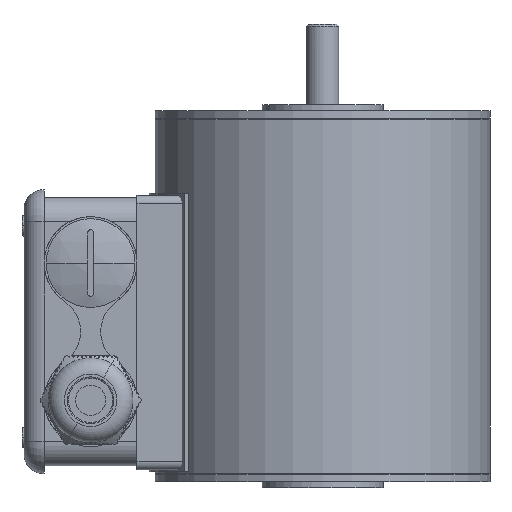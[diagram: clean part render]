
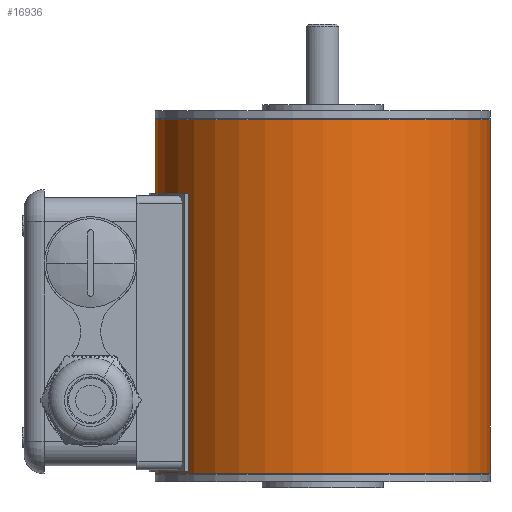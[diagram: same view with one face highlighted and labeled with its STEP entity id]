
A CAD part, front view. The second image highlights one B-rep face of the part: STEP entity #16936.
In plain terms, the highlighted cylindrical face has radius 41.5 mm (diameter 83 mm), a partial arc.
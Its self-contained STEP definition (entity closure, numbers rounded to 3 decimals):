
#5196 = VERTEX_POINT ( 'NONE', #19352 ) ;
#5199 = VERTEX_POINT ( 'NONE', #19566 ) ;
#5210 = EDGE_CURVE ( 'NONE', #5225, #5199, #19552, .T. ) ;
#5225 = VERTEX_POINT ( 'NONE', #19620 ) ;
#5291 = VERTEX_POINT ( 'NONE', #18454 ) ;
#5354 = EDGE_CURVE ( 'NONE', #5291, #5196, #18794, .T. ) ;
#7723 = CARTESIAN_POINT ( 'NONE',  ( 0., 0., -23.7 ) ) ;
#7724 = CIRCLE ( 'NONE', #7769, 41.5 ) ;
#7768 = DIRECTION ( 'NONE',  ( 1., 0., 0. ) ) ;
#7769 = AXIS2_PLACEMENT_3D ( 'NONE', #7723, #7798, #7768 ) ;
#7798 = DIRECTION ( 'NONE',  ( 0., 0., 1. ) ) ;
#16073 = EDGE_CURVE ( 'NONE', #5291, #5225, #24146, .T. ) ;
#16844 = ORIENTED_EDGE ( 'NONE', *, *, #17496, .F. ) ;
#16845 = ORIENTED_EDGE ( 'NONE', *, *, #5210, .T. ) ;
#16905 = ORIENTED_EDGE ( 'NONE', *, *, #16073, .T. ) ;
#16936 = ADVANCED_FACE ( 'NONE', ( #24829 ), #24836, .T. ) ;
#17342 = ORIENTED_EDGE ( 'NONE', *, *, #5354, .F. ) ;
#17437 = EDGE_LOOP ( 'NONE', ( #17342, #16905, #16845, #16844 ) ) ;
#17496 = EDGE_CURVE ( 'NONE', #5196, #5199, #7724, .T. ) ;
#18454 = CARTESIAN_POINT ( 'NONE',  ( -41.5, 0., -111.3 ) ) ;
#18772 = DIRECTION ( 'NONE',  ( 0., 0., 1. ) ) ;
#18773 = VECTOR ( 'NONE', #18772, 1000. ) ;
#18793 = CARTESIAN_POINT ( 'NONE',  ( -41.5, 0., 0. ) ) ;
#18794 = LINE ( 'NONE', #18793, #18773 ) ;
#19352 = CARTESIAN_POINT ( 'NONE',  ( -41.5, 0., -23.7 ) ) ;
#19551 = CARTESIAN_POINT ( 'NONE',  ( 41.5, 0., 0. ) ) ;
#19552 = LINE ( 'NONE', #19551, #19664 ) ;
#19566 = CARTESIAN_POINT ( 'NONE',  ( 41.5, 0., -23.7 ) ) ;
#19620 = CARTESIAN_POINT ( 'NONE',  ( 41.5, 0., -111.3 ) ) ;
#19663 = DIRECTION ( 'NONE',  ( 0., 0., 1. ) ) ;
#19664 = VECTOR ( 'NONE', #19663, 1000. ) ;
#24074 = DIRECTION ( 'NONE',  ( 1., 0., 0. ) ) ;
#24075 = DIRECTION ( 'NONE',  ( 0., 0., 1. ) ) ;
#24076 = CARTESIAN_POINT ( 'NONE',  ( 0., 0., -111.3 ) ) ;
#24077 = AXIS2_PLACEMENT_3D ( 'NONE', #24076, #24075, #24074 ) ;
#24146 = CIRCLE ( 'NONE', #24077, 41.5 ) ;
#24767 = DIRECTION ( 'NONE',  ( 1., 0., 0. ) ) ;
#24768 = DIRECTION ( 'NONE',  ( 0., 0., 1. ) ) ;
#24769 = CARTESIAN_POINT ( 'NONE',  ( 0., 0., 0. ) ) ;
#24772 = AXIS2_PLACEMENT_3D ( 'NONE', #24769, #24768, #24767 ) ;
#24829 = FACE_OUTER_BOUND ( 'NONE', #17437, .T. ) ;
#24836 = CYLINDRICAL_SURFACE ( 'NONE', #24772, 41.5 ) ;
